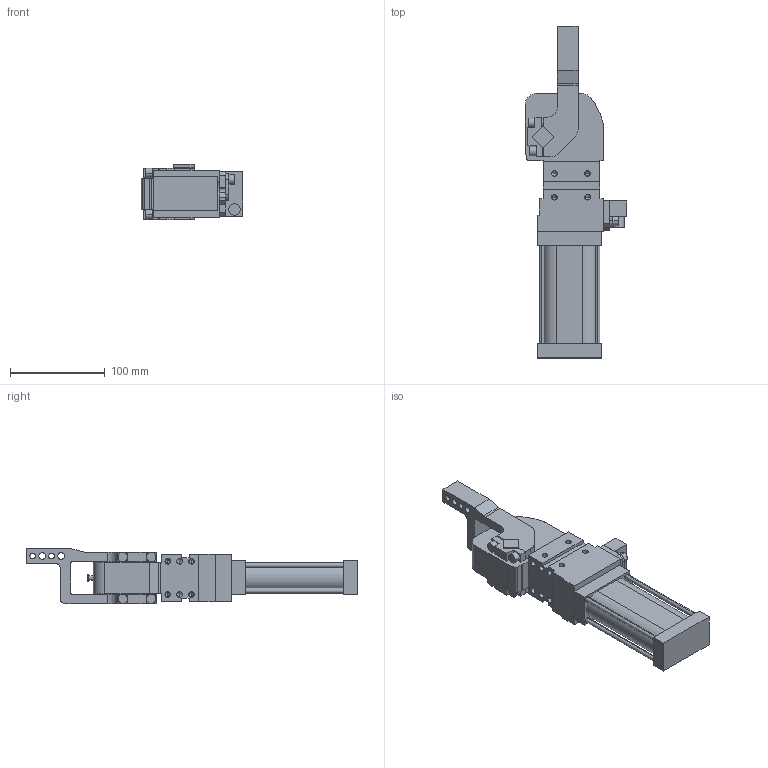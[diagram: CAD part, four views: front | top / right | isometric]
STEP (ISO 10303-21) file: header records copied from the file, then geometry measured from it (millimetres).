
FILE_DESCRIPTION (( 'STEP AP214' ), '1' );
FILE_NAME ('cpl40h1ssi1g_45.STEP', '2021-05-19T10:26:31', ( '' ), ( '' ), 'SwSTEP 2.0', 'SolidWorks 2021', '' );
FILE_SCHEMA (( 'AUTOMOTIVE_DESIGN' ));
Length unit declared in the file: millimetre
Products named in the file (5): piastra_blocchetto_cpl40; blocchetto_VEP_0_cpl40; meccanica_cpl40; cpl40h1ssi1g_45; leva_v1s_cpl40
Assembly tree (4 placements, depth 2):
  cpl40h1ssi1g_45
    meccanica_cpl40
    blocchetto_VEP_0_cpl40
    piastra_blocchetto_cpl40
    leva_v1s_cpl40
Bounding box: 107.5 x 350 x 58 mm (x, y, z)
Volume: 773836 mm3; surface area: 118009.1 mm2
Topology: 5 solids, 5 shells, 413 faces, 1055 edges, 659 vertices
Faces by surface type: plane 218, cylinder 147, cone 48
Entity records: 13750 total; most frequent: DIRECTION 2173, CARTESIAN_POINT 2088, ORIENTED_EDGE 2018, EDGE_CURVE 1009, AXIS2_PLACEMENT_3D 744, LINE 685, VECTOR 685, VERTEX_POINT 659
